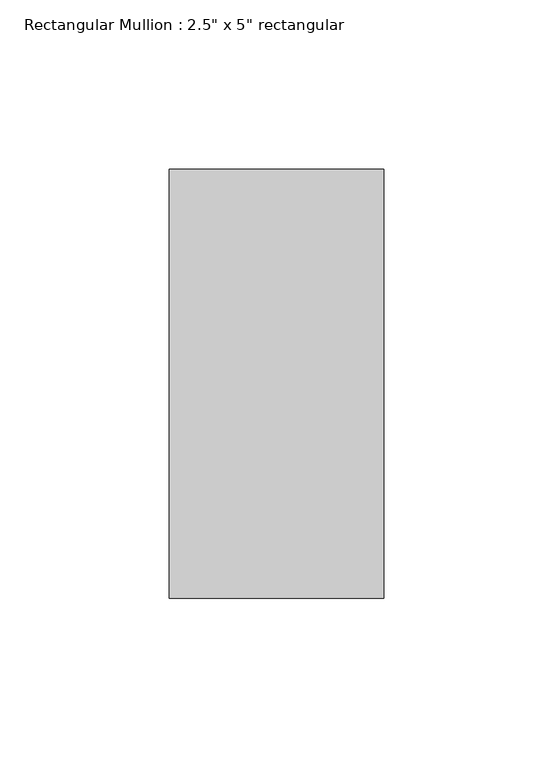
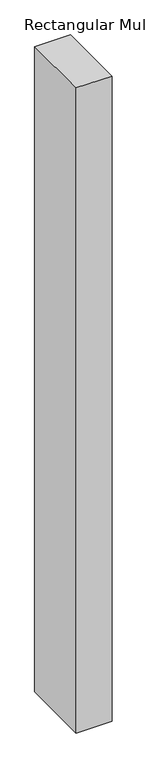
"""IFC4 building model written with IfcOpenShell, lengths in millimetres: member geometry."""

from ifc_helpers import new_model, si_unit, frame, origin, place, context, project, spatial, polyline, outline, extrude, source, transform, mapped, element, save


def member_3d44bae5(model_context):
    return source(origin(), model_context, "Body", "SweptSolid", [
        extrude(outline(polyline([(31.75, 63.5), (31.75, -63.5), (-31.75, -63.5), (-31.75, 63.5), (31.75, 63.5)])), frame((0.0, 0.0, -1206.0), z_axis=(0.0, 0.0, 1.0), x_axis=(1.0, 0.0, 0.0)), (0.0, 0.0, 1.0), 1206.0),
    ])


if __name__ == "__main__":
    model = new_model("IFC4")
    model_context = context("Model", 3, world=origin())
    ifc_project = project(units=[si_unit("LENGTHUNIT", "METRE", prefix="MILLI")], contexts=[model_context])
    site = spatial("IfcSite", under=ifc_project)
    building = spatial("IfcBuilding", under=site)
    placement = place(None, origin())
    member_shape = member_3d44bae5(model_context)
    element("IfcMember", 1, ObjectType="Rectangular Mullion : 2.5\" x 5\" rectangular", at=placement, inside=building, context=model_context, shape_type="MappedRepresentation", body=[
        mapped(member_shape, transform((0.0, 0.0, 0.0), x_axis=(1.0, 0.0, 0.0), y_axis=(0.0, 1.0, 0.0), z_axis=(0.0, 0.0, 1.0))),
    ])
    save(model, "model.ifc")
